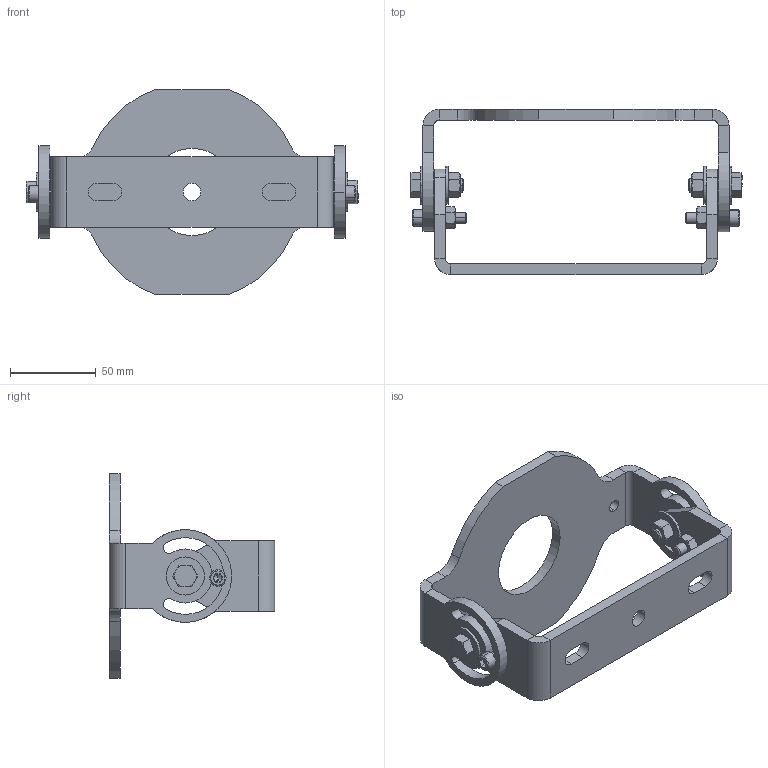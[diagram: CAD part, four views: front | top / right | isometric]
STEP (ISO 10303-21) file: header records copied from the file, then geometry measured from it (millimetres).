
FILE_DESCRIPTION (( 'STEP AP203' ), '1' );
FILE_NAME ('EXPCMR-xx-SP0003-KT.STEP', '2025-04-04T16:07:42', ( '' ), ( '' ), 'SwSTEP 2.0', 'SolidWorks 2020', '' );
FILE_SCHEMA (( 'CONFIG_CONTROL_DESIGN' ));
Length unit declared in the file: inch
Products named in the file (8): hex bolt_ai_HBOLT 0.3125-18x1x0.875-N; flat washer type b regular_ai_Regular FW 0.3125; FAB00000637-1_EXPCMR-1; hex nut_ai_HNUT 0.3125-18-D-N; FAB00000637-2_EXPCMR-2; EXPCMR-xx-SP0003-KT; hex nut_ai_HNUT 0.2500-20-D-N; socket head cap screw_ai_HX-SHCS 0.25-20x1x1-N
Assembly tree (14 placements, depth 2):
  EXPCMR-xx-SP0003-KT
    FAB00000637-2_EXPCMR-2
    FAB00000637-1_EXPCMR-1
    flat washer type b regular_ai_Regular FW 0.3125  x4
    hex nut_ai_HNUT 0.3125-18-D-N  x2
    hex bolt_ai_HBOLT 0.3125-18x1x0.875-N  x2
    hex nut_ai_HNUT 0.2500-20-D-N  x2
    socket head cap screw_ai_HX-SHCS 0.25-20x1x1-N  x2
Bounding box: 193.63 x 96.49 x 119.38 mm (x, y, z)
Volume: 177925.5 mm3; surface area: 75801.9 mm2
Topology: 14 solids, 14 shells, 338 faces, 770 edges, 462 vertices
Faces by surface type: plane 136, cylinder 106, cone 92, torus 4
Entity records: 7618 total; most frequent: CARTESIAN_POINT 1426, DIRECTION 1134, ORIENTED_EDGE 1028, EDGE_CURVE 514, AXIS2_PLACEMENT_3D 445, VERTEX_POINT 313, EDGE_LOOP 255, LINE 244
